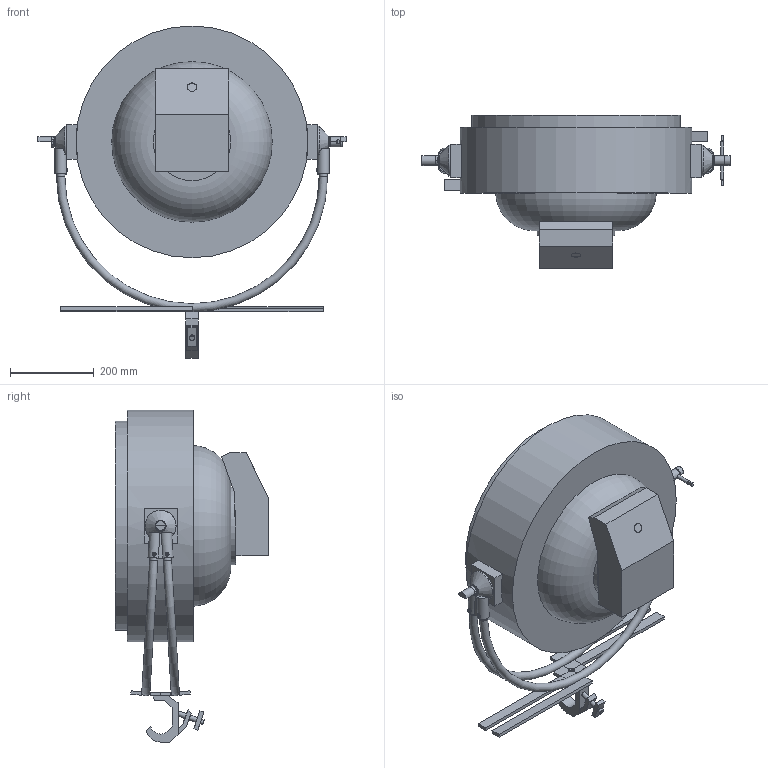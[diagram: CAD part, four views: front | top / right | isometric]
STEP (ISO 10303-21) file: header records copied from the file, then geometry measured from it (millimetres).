
FILE_DESCRIPTION(/* description */ ('Unknown'),/* implementation_level */ '2;1');
FILE_NAME(/* name */ '3D_Patt2017',/* time_stamp */ '2025-04-23T07:51:11+02:00',/* author */ ('Unknown'),/* organization */ ('Unknown'),/* preprocessor_version */ 'ST-DEVELOPER v20',/* originating_system */ 'Solid Edge',/* authorisation */ 'Unknown');
FILE_SCHEMA (('AUTOMOTIVE_DESIGN {1 0 10303 214 3 1 1}'));
Length unit declared in the file: millimetre
Products named in the file (11): 3D_Patt2017; Zdroj P2017;Zdroj P2017; Hlava;Hlava; 17030931 Aretace otoèná šroub;17030931 Aretace otoèná šroub; 17030931 Aretace otoèná klièka;17030931 Aretace otoèná klièka; 11015335 Støed pro závìs;11015335 Støed pro závìs; 18060235 Nýt trhací D5xL12 Fe;18060235 Nýt trhací D5xL12 Fe; 17040xxx Trubka z嫛鮀u;17040xxx Trubka z嫛鮀u; 17030931 Aretace otoèná otoèná èást-oa0;17030931 Aretace otoèná otoèn
á èást-oa0; 17030931 Aretace otoèná otoèná èást;17030931 Aretace otoèná otoèná èá
st; Clamp Doughty Slimline QT;Clamp Doughty Slimline QT
Assembly tree (10 placements, depth 2):
  3D_Patt2017
    Zdroj P2017;Zdroj P2017
    Hlava;Hlava
    17030931 Aretace otoèná šroub;17030931 Aretace otoèná šroub
    17030931 Aretace otoèná klièka;17030931 Aretace otoèná klièka
    11015335 Støed pro závìs;11015335 Støed pro závìs
    18060235 Nýt trhací D5xL12 Fe;18060235 Nýt trhací D5xL12 Fe
    17040xxx Trubka z嫛鮀u;17040xxx Trubka z嫛鮀u
    17030931 Aretace otoèná otoèná èást-oa0;17030931 Aretace otoèná otoèn
á èást-oa0
    17030931 Aretace otoèná otoèná èást;17030931 Aretace otoèná otoèná èá
st
    Clamp Doughty Slimline QT;Clamp Doughty Slimline QT
Bounding box: 735 x 365.19 x 791.78 mm (x, y, z)
Volume: 56126306.6 mm3; surface area: 1471570.6 mm2
Topology: 21 solids, 21 shells, 301 faces, 676 edges, 441 vertices
Faces by surface type: plane 167, cylinder 92, torus 30, cone 12
Full cylindrical faces by diameter (mm): 3 x8, 5 x16, 5.2 x8, 8 x2, 9.5 x8, 10 x4, 12 x6, 12.5 x2, 13 x1, 17.5 x4, 19.2 x4, 19.5 x4, 22.171 x1, 23 x2, 24 x1, 28 x2, 42 x2, 184.95 x1, 498.526 x1, 552.783 x1
Entity records: 9320 total; most frequent: CARTESIAN_POINT 2013, DIRECTION 1265, ORIENTED_EDGE 1050, EDGE_CURVE 525, AXIS2_PLACEMENT_3D 508, EDGE_LOOP 495, FACE_BOUND 495, VERTEX_POINT 402
